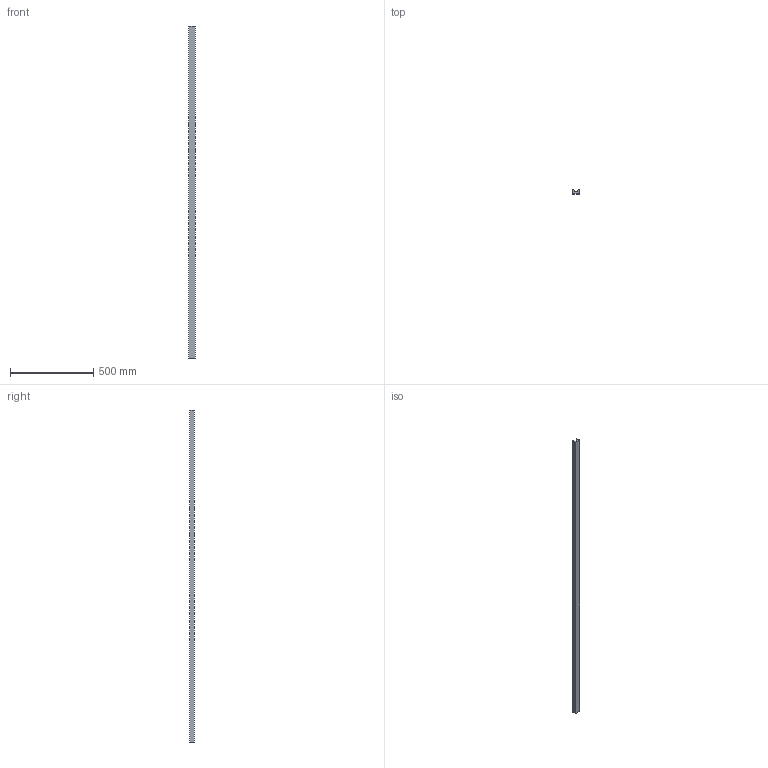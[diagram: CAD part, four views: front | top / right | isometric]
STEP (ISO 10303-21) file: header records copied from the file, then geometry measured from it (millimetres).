
FILE_DESCRIPTION (( 'STEP AP214' ), '1' );
FILE_NAME ('CT30D.STEP', '2024-01-24T10:11:42', ( '' ), ( '' ), 'SwSTEP 2.0', 'SolidWorks 2022', '' );
FILE_SCHEMA (( 'AUTOMOTIVE_DESIGN' ));
Length unit declared in the file: millimetre
Products named in the file (1): CT30D
Bounding box: 40 x 25 x 2000 mm (x, y, z)
Volume: 1389617.3 mm3; surface area: 298480.9 mm2
Topology: 1 solids, 1 shells, 10 faces, 24 edges, 16 vertices
Faces by surface type: plane 10
Entity records: 322 total; most frequent: CARTESIAN_POINT 51, ORIENTED_EDGE 48, DIRECTION 46, EDGE_CURVE 24, LINE 24, VECTOR 24, VERTEX_POINT 16, AXIS2_PLACEMENT_3D 11
